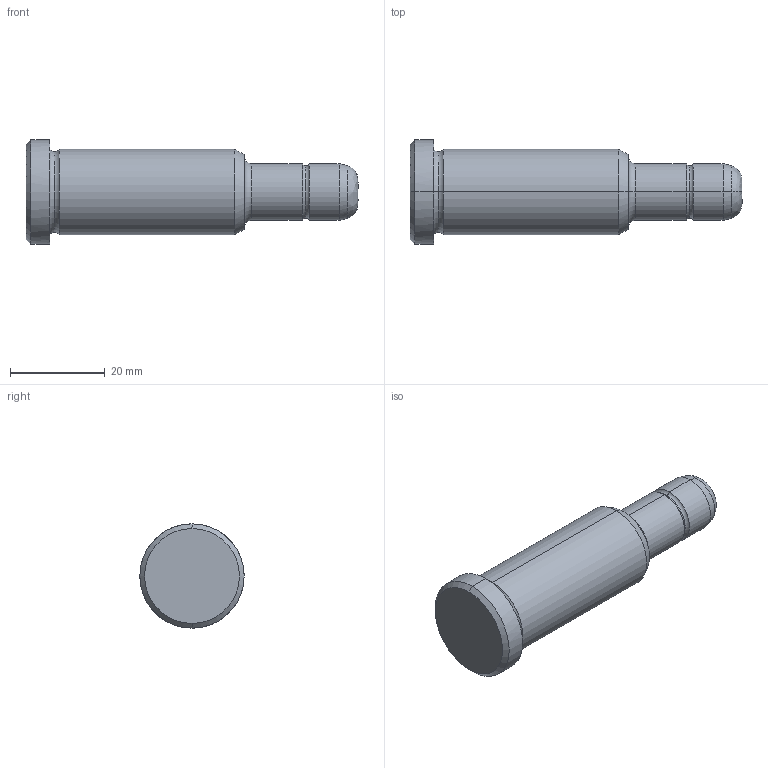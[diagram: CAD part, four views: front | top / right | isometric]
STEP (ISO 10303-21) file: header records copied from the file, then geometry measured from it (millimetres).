
FILE_DESCRIPTION(('CATIA V5 STEP Exchange'),'2;1');
FILE_NAME('C:\Users\Utente\Desktop\IO LAVORO\3D X SITO CF\X SITO\PLASTICA\351\351-12X46X70.stp','2021-08-17T13:20:57+00:00',('none'),('none'),'CATIA Version 5 Release 20 GA (IN-10)','CATIA V5 STEP AP203','none');
FILE_SCHEMA(('CONFIG_CONTROL_DESIGN'));
Length unit declared in the file: millimetre
Products named in the file (1): 351-12X46X70
Bounding box: 70 x 22 x 22 mm (x, y, z)
Volume: 14807 mm3; surface area: 4169 mm2
Topology: 1 solids, 1 shells, 30 faces, 86 edges, 60 vertices
Faces by surface type: torus 10, cylinder 8, cone 6, plane 4, bspline 2
Entity records: 1128 total; most frequent: CARTESIAN_POINT 343, ORIENTED_EDGE 172, DIRECTION 124, EDGE_CURVE 86, AXIS2_PLACEMENT_3D 83, VERTEX_POINT 60, CIRCLE 54, EDGE_LOOP 32
